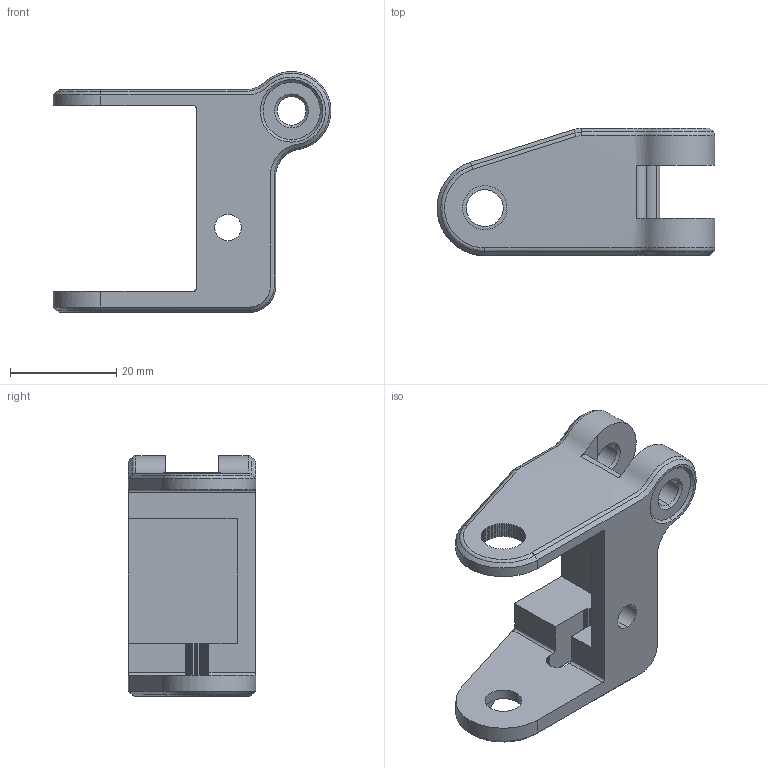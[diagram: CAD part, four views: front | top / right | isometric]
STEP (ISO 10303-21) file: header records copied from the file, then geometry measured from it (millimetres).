
FILE_DESCRIPTION(/* description */ (''),/* implementation_level */ '2;1');
FILE_NAME(/* name */ 'Tetrapod Coxa V6 Flipped',/* time_stamp */ '2025-05-30T10:03:33-04:00',/* author */ (''),/* organization */ (''),/* preprocessor_version */ 'ST-DEVELOPER v19.2',/* originating_system */ 'Rhino 8.19',/* authorisation */ '');
FILE_SCHEMA (('CONFIG_CONTROL_DESIGN'));
Length unit declared in the file: millimetre
Products named in the file (1): Document
Bounding box: 52.39 x 24 x 45.4 mm (x, y, z)
Volume: 12626.1 mm3; surface area: 7828.7 mm2
Topology: 1 solids, 1 shells, 234 faces, 651 edges, 423 vertices
Faces by surface type: plane 175, cylinder 32, bspline 27
Entity records: 8282 total; most frequent: CARTESIAN_POINT 3560, ORIENTED_EDGE 1302, EDGE_CURVE 651, B_SPLINE_CURVE_WITH_KNOTS 515, VERTEX_POINT 423, DIRECTION 363, AXIS2_PLACEMENT_3D 284, EDGE_LOOP 250
